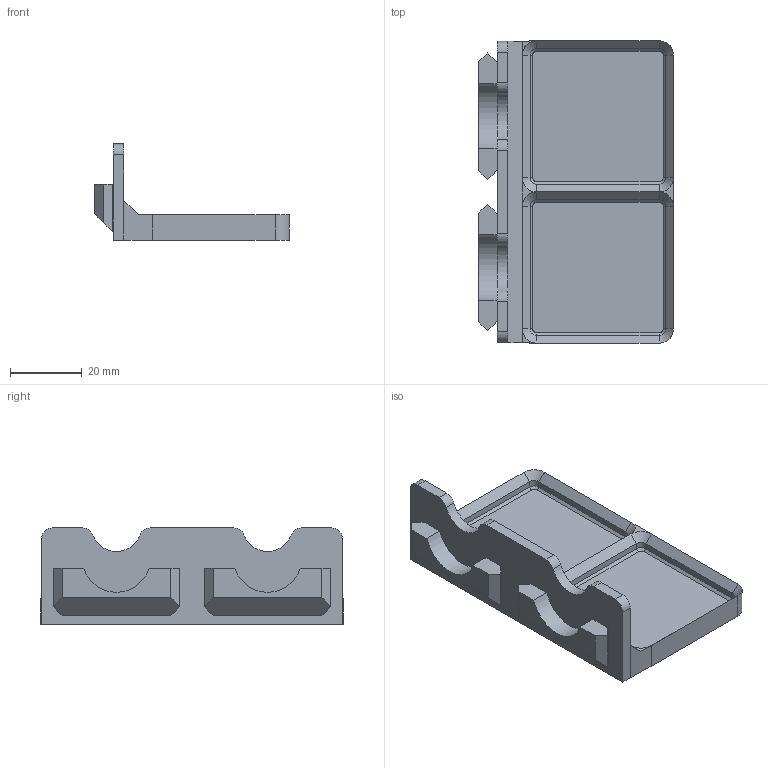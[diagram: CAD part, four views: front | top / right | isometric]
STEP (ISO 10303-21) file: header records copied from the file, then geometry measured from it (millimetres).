
FILE_DESCRIPTION(/* description */ ('','CAx-IF Rec.Pracs.---Representation and Presentation of Product Manufacturing Information (PMI)---4.0---2014-10-13'),/* implementation_level */ '2;1');
FILE_NAME(/* name */ 'Goews Single Hanger Gridfinity 1x2 Base v1.step',/* time_stamp */ '2024-11-27T21:13:19-05:00',/* author */ (''),/* organization */ (''),/* preprocessor_version */ 'ST-DEVELOPER v20',/* originating_system */ 'Autodesk Translation Framework v13.20.0.188',/* authorisation */ '');
FILE_SCHEMA (('AP242_MANAGED_MODEL_BASED_3D_ENGINEERING_MIM_LF { 1 0 10303 442 1 1 4 }'));
Length unit declared in the file: millimetre
Products named in the file (1): Goews Single Hanger Gridfinity 1x2 Base
Bounding box: 54.15 x 84 x 26.72 mm (x, y, z)
Volume: 22791.9 mm3; surface area: 14777.6 mm2
Topology: 1 solids, 1 shells, 110 faces, 258 edges, 152 vertices
Faces by surface type: plane 68, cylinder 26, cone 16
Entity records: 3097 total; most frequent: DIRECTION 542, CARTESIAN_POINT 521, ORIENTED_EDGE 516, EDGE_CURVE 258, LINE 196, VECTOR 196, AXIS2_PLACEMENT_3D 173, VERTEX_POINT 152
